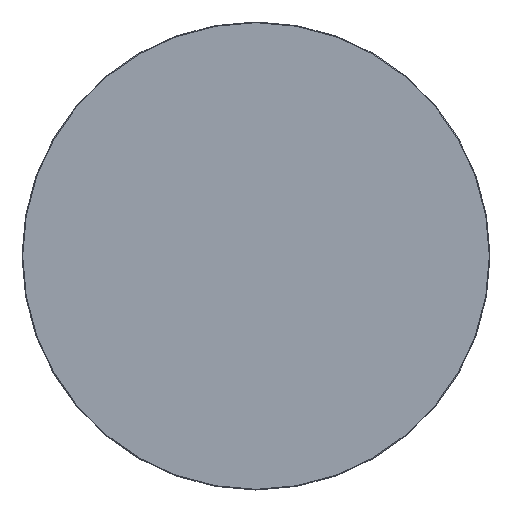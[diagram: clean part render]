
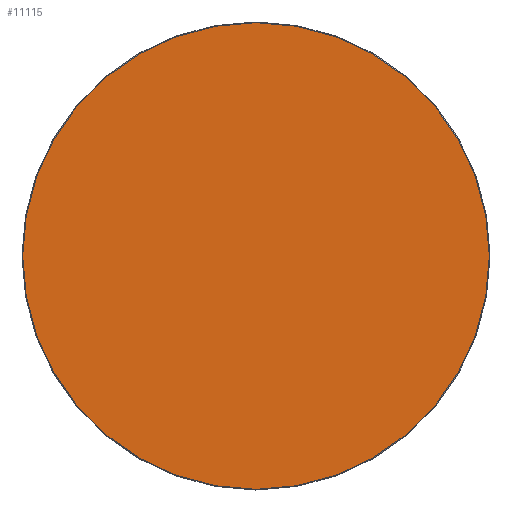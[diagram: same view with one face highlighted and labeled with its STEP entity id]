
A CAD part, top view. The second image highlights one B-rep face of the part: STEP entity #11115.
In plain terms, the highlighted planar face has unit normal (0, 0, 1).
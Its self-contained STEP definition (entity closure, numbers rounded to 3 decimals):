
#11040=CARTESIAN_POINT('',(0.,0.,20.));
#11041=DIRECTION('',(1.,0.,0.));
#11042=DIRECTION('',(0.,0.,1.));
#11043=AXIS2_PLACEMENT_3D('',#11040,#11042,#11041);
#11044=PLANE('',#11043);
#11045=CARTESIAN_POINT('',(-0.5,-498.5,20.));
#11046=VERTEX_POINT('',#11045);
#11047=CARTESIAN_POINT('',(0.5,-498.5,20.));
#11048=VERTEX_POINT('',#11047);
#11049=CARTESIAN_POINT('',(-0.5,-498.5,20.));
#11050=DIRECTION('',(1.,0.,0.));
#11051=VECTOR('',#11050,1.);
#11052=LINE('',#11049,#11051);
#11053=EDGE_CURVE('',#11046,#11048,#11052,.T.);
#11054=ORIENTED_EDGE('E105',*,*,#11053,.T.);
#11055=CARTESIAN_POINT('',(498.5,-0.5,20.));
#11056=VERTEX_POINT('',#11055);
#11057=CARTESIAN_POINT('',(0.5,-0.5,20.));
#11058=DIRECTION('',(0.,-1.,0.));
#11059=DIRECTION('',(0.,0.,1.));
#11060=AXIS2_PLACEMENT_3D('',#11057,#11059,#11058);
#11061=CIRCLE('',#11060,498.);
#11062=EDGE_CURVE('',#11048,#11056,#11061,.T.);
#11063=ORIENTED_EDGE('E107',*,*,#11062,.T.);
#11064=CARTESIAN_POINT('',(498.5,0.5,20.));
#11065=VERTEX_POINT('',#11064);
#11066=CARTESIAN_POINT('',(498.5,-0.5,20.));
#11067=DIRECTION('',(0.,1.,0.));
#11068=VECTOR('',#11067,1.);
#11069=LINE('',#11066,#11068);
#11070=EDGE_CURVE('',#11056,#11065,#11069,.T.);
#11071=ORIENTED_EDGE('E109',*,*,#11070,.T.);
#11072=CARTESIAN_POINT('',(0.5,498.5,20.));
#11073=VERTEX_POINT('',#11072);
#11074=CARTESIAN_POINT('',(0.5,0.5,20.));
#11075=DIRECTION('',(1.,0.,0.));
#11076=DIRECTION('',(0.,0.,1.));
#11077=AXIS2_PLACEMENT_3D('',#11074,#11076,#11075);
#11078=CIRCLE('',#11077,498.);
#11079=EDGE_CURVE('',#11065,#11073,#11078,.T.);
#11080=ORIENTED_EDGE('E111',*,*,#11079,.T.);
#11081=CARTESIAN_POINT('',(-0.5,498.5,20.));
#11082=VERTEX_POINT('',#11081);
#11083=CARTESIAN_POINT('',(0.5,498.5,20.));
#11084=DIRECTION('',(-1.,0.,0.));
#11085=VECTOR('',#11084,1.);
#11086=LINE('',#11083,#11085);
#11087=EDGE_CURVE('',#11073,#11082,#11086,.T.);
#11088=ORIENTED_EDGE('E113',*,*,#11087,.T.);
#11089=CARTESIAN_POINT('',(-498.5,0.5,20.));
#11090=VERTEX_POINT('',#11089);
#11091=CARTESIAN_POINT('',(-0.5,0.5,20.));
#11092=DIRECTION('',(0.,1.,0.));
#11093=DIRECTION('',(0.,0.,1.));
#11094=AXIS2_PLACEMENT_3D('',#11091,#11093,#11092);
#11095=CIRCLE('',#11094,498.);
#11096=EDGE_CURVE('',#11082,#11090,#11095,.T.);
#11097=ORIENTED_EDGE('E115',*,*,#11096,.T.);
#11098=CARTESIAN_POINT('',(-498.5,-0.5,20.));
#11099=VERTEX_POINT('',#11098);
#11100=CARTESIAN_POINT('',(-498.5,0.5,20.));
#11101=DIRECTION('',(0.,-1.,0.));
#11102=VECTOR('',#11101,1.);
#11103=LINE('',#11100,#11102);
#11104=EDGE_CURVE('',#11090,#11099,#11103,.T.);
#11105=ORIENTED_EDGE('E117',*,*,#11104,.T.);
#11106=CARTESIAN_POINT('',(-0.5,-0.5,20.));
#11107=DIRECTION('',(-1.,0.,0.));
#11108=DIRECTION('',(-0.,0.,1.));
#11109=AXIS2_PLACEMENT_3D('',#11106,#11108,#11107);
#11110=CIRCLE('',#11109,498.);
#11111=EDGE_CURVE('',#11099,#11046,#11110,.T.);
#11112=ORIENTED_EDGE('E119',*,*,#11111,.T.);
#11113=EDGE_LOOP('',(#11054,#11063,#11071,#11080,#11088,#11097,#11105,#11112));
#11114=FACE_OUTER_BOUND('',#11113,.T.);
#11115=ADVANCED_FACE('F2',(#11114),#11044,.T.);
